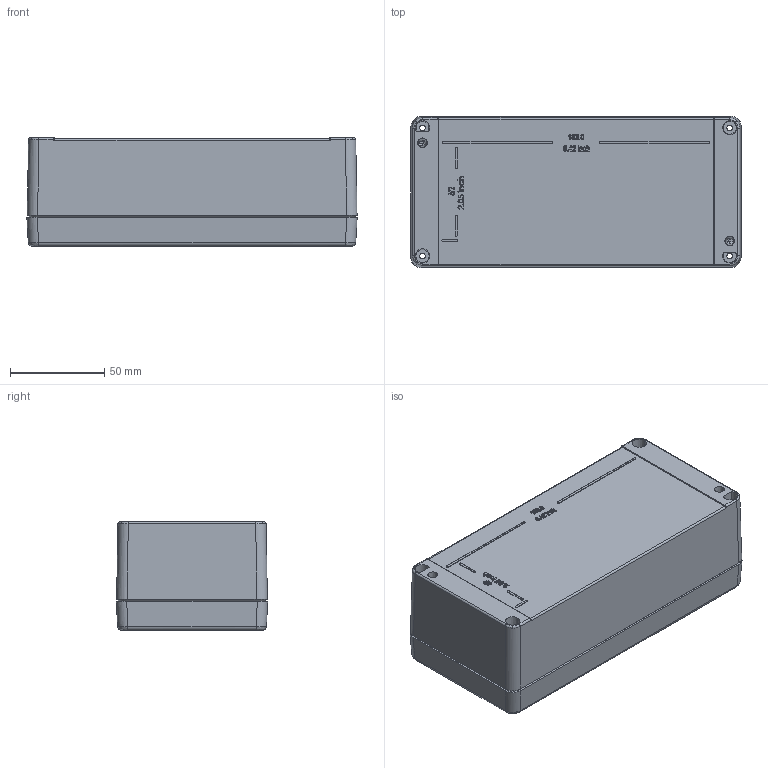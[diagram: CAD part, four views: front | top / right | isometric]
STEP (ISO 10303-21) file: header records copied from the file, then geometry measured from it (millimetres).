
FILE_DESCRIPTION (( 'STEP AP203' ), '1' );
FILE_NAME ('ALU ASSY 1758057.STEP', '2024-08-27T07:13:59', ( '' ), ( '' ), 'SwSTEP 2.0', 'SolidWorks 2018', '' );
FILE_SCHEMA (( 'CONFIG_CONTROL_DESIGN' ));
Length unit declared in the file: millimetre
Products named in the file (3): ALU ASSY 1758057; ALU BASE 1758057; ALU LID 1758057
Assembly tree (2 placements, depth 2):
  ALU ASSY 1758057
    ALU BASE 1758057
    ALU LID 1758057
Bounding box: 175.19 x 80.32 x 57.45 mm (x, y, z)
Volume: 206612.2 mm3; surface area: 115091.5 mm2
Topology: 2 solids, 2 shells, 825 faces, 2061 edges, 1301 vertices
Faces by surface type: plane 315, bspline 281, cylinder 143, cone 68, torus 17, sphere 1
Entity records: 41978 total; most frequent: CARTESIAN_POINT 24110, ORIENTED_EDGE 4084, DIRECTION 2788, EDGE_CURVE 2042, VERTEX_POINT 1301, VECTOR 1046, LINE 1046, EDGE_LOOP 925
